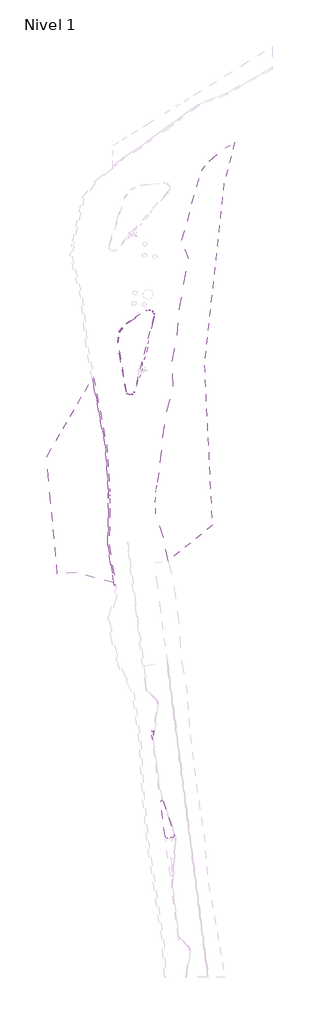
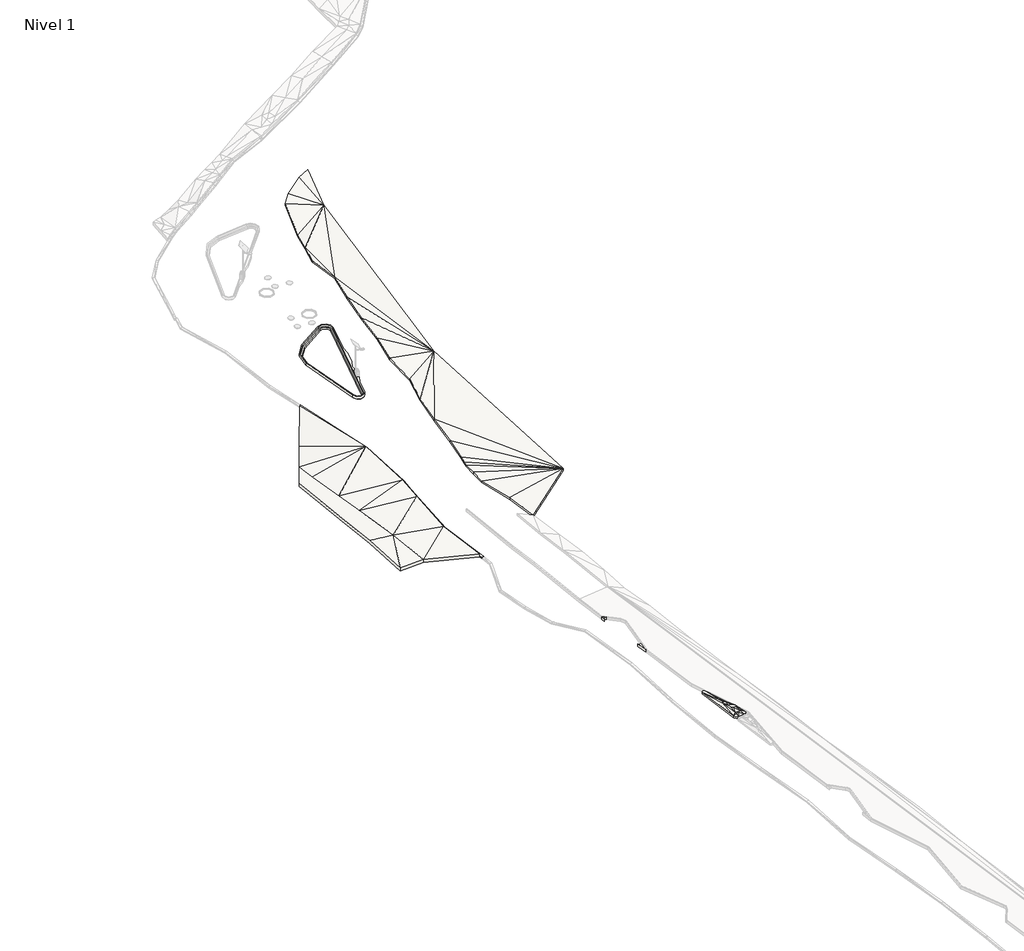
# One storey, part 36 of 45: 7 slabs.
"""IFC4 building model written with IfcOpenShell, lengths in millimetres."""

from ifc_helpers import new_model, si_unit, point, frame, frame_2d, origin, place, context, project, spatial, polyline, circle_curve, trimmed, segment, composite_curve, outline, extrude, faceted_brep, element, save
from ifc_brep_helpers import plane_surface, cylinder_surface, revolved_surface, spline_surface, advanced_brep

model = new_model("IFC4")

# Units and contexts
model_context = context("Model", 3, world=origin())
ifc_project = project(units=[si_unit("LENGTHUNIT", "METRE", prefix="MILLI")], contexts=[model_context])

# Site, building, storey
site = spatial("IfcSite", under=ifc_project)
building = spatial("IfcBuilding", under=site)
storey = spatial("IfcBuildingStorey", under=building, Name="Nivel 1", Elevation=0.0)

# Slabs
placement = place(None, origin())
element("IfcSlab", 1, ObjectType="Tierra de Chacra (50cm)", at=placement, inside=storey, context=model_context, shape_type="Brep", body=[
    faceted_brep([(-222064.6879058, 807823.0811158, 4240.7325958), (-222064.6879058, 807823.0811158, 4740.7325958), (-229632.1521823, 809829.2459218, 5217.4945622), (-229632.1521823, 809829.2459218, 4717.4945622), (-233377.4622238, 809677.0215673, 5217.4945622), (-233377.4622238, 809677.0215673, 4717.4945622), (-234039.3384465, 816728.9255612, 5717.4945622), (-234701.2146691, 823780.8295551, 5717.4945622), (-235122.2789249, 828267.022903, 5717.4945622), (-235578.1192192, 833123.7345995, 5717.4945622), (-235578.1192192, 833123.7345995, 5217.4945622), (-235122.2789249, 828267.022903, 5217.4945622), (-234701.2146691, 823780.8295551, 5217.4945622), (-234039.3384465, 816728.9255612, 5217.4945622), (-233623.3989788, 836476.5681471, 5717.4945622), (-230784.9031716, 841345.2975798, 5217.4945622), (-226374.0135304, 848911.075259, 5717.4945622), (-226374.0135304, 848911.075259, 5217.4945622), (-230784.9031716, 841345.2975798, 4717.4945622), (-233623.3989788, 836476.5681471, 5217.4945622), (-223799.8363071, 835541.050999, 6237.0201004), (-223799.8363071, 835541.050999, 5737.0201004), (-223142.2067318, 826783.6797056, 5785.4201004), (-223142.2067318, 826783.6797056, 5285.4201004), (-223160.2327757, 822811.3117503, 5476.8201004), (-223160.2327757, 822811.3117503, 4976.8201004), (-223288.7493352, 815458.8429505, 5045.7201003), (-223288.7493352, 815458.8429505, 4545.7201003), (-230581.6901084, 816300.674754, 5717.4945622), (-230581.6901084, 816300.674754, 5217.4945622), (-231722.9255187, 823530.6338278, 5717.4945622), (-231722.9255187, 823530.6338278, 5217.4945622), (-232382.3408449, 827927.7704806, 5717.4945622), (-232382.3408449, 827927.7704806, 5217.4945622), (-233271.8706965, 833597.0576142, 5717.4945622), (-233271.8706965, 833597.0576142, 5217.4945622)], [[[0, 1, 2, 3]], [[3, 2, 4, 5]], [[5, 4, 6, 7, 8, 9, 10, 11, 12, 13]], [[10, 9, 14, 15, 16, 17, 18, 19]], [[17, 16, 20, 21]], [[21, 20, 22, 23]], [[23, 22, 24, 25]], [[25, 24, 26, 27]], [[27, 26, 1, 0]], [[26, 24, 28]], [[27, 29, 25]], [[24, 22, 30]], [[26, 2, 1]], [[25, 31, 23]], [[27, 0, 3]], [[22, 20, 32]], [[23, 33, 21]], [[20, 16, 15]], [[21, 18, 17]], [[4, 2, 28]], [[5, 29, 3]], [[9, 8, 7, 6, 28, 30, 32, 34, 14]], [[10, 19, 35, 33, 31, 29, 13, 12, 11]], [[20, 34, 32]], [[21, 33, 35]], [[22, 32, 30]], [[23, 31, 33]], [[4, 28, 6]], [[26, 28, 2]], [[24, 30, 28]], [[5, 13, 29]], [[27, 3, 29]], [[25, 29, 31]], [[20, 14, 34]], [[21, 35, 19]], [[20, 15, 14]], [[21, 19, 18]]]),
])
element("IfcSlab", 2, ObjectType="Lippia", at=placement, inside=storey, context=model_context, shape_type="AdvancedBrep", body=[
    advanced_brep(
    [(-210292.8653894, 756622.9550529, 4950.0), (-210292.8653894, 756622.9550529, 5250.0), (-211201.9377301, 756505.7694745, 5250.0), (-211201.9377301, 756505.7694745, 4950.0), (-209917.9507389, 757304.6194372, 4950.0), (-209917.9507389, 757304.6194372, 5250.0), (-212162.4824775, 763955.6772637, 4950.0), (-212162.4824775, 763955.6772637, 5250.0), (-211758.3017109, 756936.2724955, 4950.0), (-211758.3017109, 756936.2724955, 5250.0), (-212649.344856, 763874.8431575, 5250.0), (-212649.344856, 763874.8431575, 4950.0), (-210700.9478644, 758460.2886419, 5750.0), (-211062.4186099, 758913.2096273, 5750.0), (-211392.6519077, 758956.1857831, 5750.0), (-211480.2468059, 758631.233077, 5750.0), (-211350.2721382, 758389.3771089, 5750.0), (-211212.0426831, 758110.162917, 5750.0), (-210771.2282631, 758087.9082691, 5750.0), (-210601.680698, 757241.204043, 5550.0), (-211051.2300788, 757010.6463593, 5550.0), (-210700.9478644, 758460.2886419, 5450.0), (-210771.2282631, 758087.9082691, 5450.0), (-211212.0426831, 758110.162917, 5450.0), (-211350.2721382, 758389.3771089, 5450.0), (-211480.2468059, 758631.233077, 5450.0), (-211392.6519077, 758956.1857831, 5450.0), (-211062.4186099, 758913.2096273, 5450.0), (-210601.680698, 757241.204043, 5250.0), (-211051.2300788, 757010.6463593, 5250.0), (-211275.7584244, 760169.0789232, 5550.0), (-211756.3845479, 760047.0605759, 5550.0), (-211275.7584244, 760169.0789232, 5250.0), (-211756.3845479, 760047.0605759, 5250.0), (-211413.526468, 757203.1861308, 5550.0), (-211262.6499054, 757002.0698189, 5550.0), (-211413.526468, 757203.1861308, 5250.0), (-211262.6499054, 757002.0698189, 5250.0), (-210361.6821982, 757510.5633203, 5550.0), (-210361.6821982, 757510.5633203, 5250.0), (-210365.4210398, 757871.3121543, 5550.0), (-210365.4210398, 757871.3121543, 5250.0), (-211569.6933824, 760319.3109362, 5550.0), (-211569.6933824, 760319.3109362, 5250.0)],
    [
        (0, 1),
        (1, 2),
        (2, 3),
        (3, 0),
        (4, 5),
        (5, 1, circle_curve(frame((-210380.67553, 757115.184044, 5250.0), z_axis=(0.0, 0.0, -1.0), x_axis=(0.41419378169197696, 0.9101887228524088, 0.0)), 500.0000005)),
        (0, 4, circle_curve(frame((-210380.67553, 757115.184044, 4950.0), z_axis=(0.0, 0.0, 1.0), x_axis=(0.41419378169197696, 0.9101887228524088, 0.0)), 500.0000005)),
        (6, 7),
        (7, 5),
        (4, 6),
        (8, 9),
        (9, 10),
        (10, 11),
        (11, 8),
        (2, 9, circle_curve(frame((-211262.6499054, 757002.0698189, 5250.0), z_axis=(0.0, 0.0, -1.0), x_axis=(0.41419378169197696, 0.9101887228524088, 0.0)), 500.0000001)),
        (8, 3, circle_curve(frame((-211262.6499054, 757002.0698189, 4950.0), z_axis=(0.0, 0.0, 1.0), x_axis=(0.41419378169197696, 0.9101887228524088, 0.0)), 500.0000001)),
        (12, 13),
        (13, 14),
        (14, 15),
        (15, 16),
        (16, 17),
        (17, 18),
        (18, 12),
        (5, 19),
        (19, 1),
        (1, 20),
        (20, 2),
        (21, 22),
        (22, 23),
        (23, 24),
        (24, 25),
        (25, 26),
        (26, 27),
        (27, 21),
        (0, 28),
        (28, 4),
        (3, 29),
        (29, 0),
        (13, 30),
        (30, 14),
        (14, 31),
        (31, 15),
        (26, 32),
        (32, 27),
        (25, 33),
        (33, 26),
        (30, 31),
        (12, 30),
        (33, 32),
        (32, 21),
        (34, 9),
        (9, 35),
        (35, 34),
        (16, 34),
        (34, 17),
        (36, 37),
        (37, 8),
        (8, 36),
        (23, 36),
        (36, 24),
        (2, 35),
        (35, 20),
        (20, 19),
        (19, 34),
        (37, 3),
        (36, 28),
        (28, 29),
        (29, 37),
        (19, 17),
        (19, 18),
        (5, 38),
        (38, 19),
        (23, 28),
        (22, 28),
        (28, 39),
        (39, 4),
        (40, 18),
        (18, 38),
        (38, 40),
        (40, 5),
        (5, 30),
        (30, 40),
        (41, 39),
        (39, 22),
        (22, 41),
        (41, 32),
        (32, 4),
        (4, 41),
        (34, 15),
        (31, 34),
        (31, 9),
        (36, 33),
        (25, 36),
        (8, 33),
        (40, 12),
        (21, 41),
        (42, 31),
        (30, 42),
        (43, 32),
        (33, 43),
        (10, 7, circle_curve(frame((-212399.3463437, 763875.7053413, 5250.0), z_axis=(0.0, 0.0, -1.0), x_axis=(0.41419378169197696, 0.9101887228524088, 0.0)), 249.999999)),
        (6, 11, circle_curve(frame((-212399.3463437, 763875.7053413, 4950.0), z_axis=(0.0, 0.0, 1.0), x_axis=(0.41419378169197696, 0.9101887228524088, 0.0)), 249.999999)),
        (31, 10),
        (42, 10),
        (42, 7),
        (30, 7),
        (11, 33),
        (11, 43),
        (6, 43),
        (6, 32),
    ],
    [
        plane_surface(frame((-210292.8653894, 756622.9550529, 4950.0), z_axis=(0.1278489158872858, -0.9917936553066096, 0.0), x_axis=(0.0, 0.0, 1.0))),
        cylinder_surface(frame((-210380.67553, 757115.184044, 5250.0), z_axis=(0.0, 0.0, -1.0000000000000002), x_axis=(0.41419378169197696, 0.9101887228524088, 0.0)), 500.0000005),
        plane_surface(frame((-212162.4824775, 763955.6772637, 4950.0), z_axis=(0.9475009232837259, 0.3197530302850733, 0.0), x_axis=(0.0, 0.0, 1.0))),
        plane_surface(frame((-211758.3017109, 756936.2724955, 4950.0), z_axis=(-0.9918549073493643, -0.12737284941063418, 0.0), x_axis=(0.0, 0.0, 1.0))),
        cylinder_surface(frame((-211262.6499054, 757002.0698189, 5250.0), z_axis=(0.0, 0.0, -1.0000000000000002), x_axis=(0.41419378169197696, 0.9101887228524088, 0.0)), 500.0000001),
        plane_surface(frame((-211138.5440389, 758506.9093463, 5750.0), z_axis=(0.0, 0.0, 1.0), x_axis=(-0.623783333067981, 0.7815973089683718, 0.0))),
        spline_surface(2, 1, [[(-210292.8653894, 756622.9550529, 5250.0), (-210601.680698, 757241.204043, 5550.0)], [(-210057.69126836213, 756664.9084384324, 5250.0), (-210601.680698, 757241.204043, 5550.0)], [(-209942.5673687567, 756874.2250443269, 5250.0), (-210601.680698, 757241.204043, 5550.0)], [(-209827.44346915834, 757083.5416502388, 5250.0), (-210601.680698, 757241.204043, 5550.0)], [(-209917.9507389, 757304.6194372, 5250.0), (-210601.680698, 757241.204043, 5550.0)]], [3, 2, 3], [2, 2], [0.0, 1.0, 2.0], [0.0, 1.0], weights=[[1.0, 1.0], [0.9023052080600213, 0.9023052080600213], [1.0, 1.0], [0.9023052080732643, 0.9023052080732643], [1.0, 1.0]]),
        plane_surface(frame((-210848.6777328, 756713.1236289, 5350.0), z_axis=(0.06761124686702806, -0.5244972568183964, 0.8487233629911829), x_axis=(0.9917936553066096, 0.1278489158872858, 0.0))),
        plane_surface(frame((-211138.5440389, 758506.9093463, 5450.0), z_axis=(0.0, 0.0, -1.0), x_axis=(-0.623783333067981, 0.7815973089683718, 0.0))),
        spline_surface(1, 2, [[(-210292.8653894, 756622.9550529, 4950.0), (-210057.69126836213, 756664.9084384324, 4950.0), (-209942.5673687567, 756874.2250443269, 4950.0), (-209827.44346915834, 757083.5416502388, 4950.0), (-209917.9507389, 757304.6194372, 4950.0)], [(-210601.680698, 757241.204043, 5250.0), (-210601.680698, 757241.204043, 5250.0), (-210601.680698, 757241.204043, 5250.0), (-210601.680698, 757241.204043, 5250.0), (-210601.680698, 757241.204043, 5250.0)]], [2, 2], [3, 2, 3], [0.0, 1.0], [0.0, 1.0, 2.0], weights=[[1.0, 0.9023052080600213, 1.0, 0.9023052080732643, 1.0], [1.0, 0.9023052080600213, 1.0, 0.9023052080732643, 1.0]]),
        plane_surface(frame((-210848.6777328, 756713.1236289, 5050.0), z_axis=(-0.06761124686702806, 0.5244972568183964, -0.8487233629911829), x_axis=(0.9917936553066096, 0.1278489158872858, 0.0))),
        plane_surface(frame((-211243.6096473, 759346.1581112, 5683.3333333), z_axis=(0.020913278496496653, 0.16069983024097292, 0.9867817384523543), x_axis=(0.9916380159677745, -0.1290505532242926, 0.0))),
        plane_surface(frame((-211543.0944205, 759211.4931453, 5683.3333333), z_axis=(-0.2900087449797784, 0.07817533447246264, 0.9538257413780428), x_axis=(0.2602716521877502, 0.9655354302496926, 0.0))),
        plane_surface(frame((-211243.6096473, 759346.1581112, 5383.3333333), z_axis=(-0.020913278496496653, -0.16069983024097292, -0.9867817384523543), x_axis=(0.9916380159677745, -0.1290505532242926, 0.0))),
        plane_surface(frame((-211543.0944205, 759211.4931453, 5383.3333333), z_axis=(0.2900087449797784, -0.07817533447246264, -0.9538257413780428), x_axis=(0.2602716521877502, 0.9655354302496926, 0.0))),
        plane_surface(frame((-211474.9316267, 759724.1084274, 5616.6666667), z_axis=(-0.04227442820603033, 0.16651753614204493, 0.9851318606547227), x_axis=(0.3116337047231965, -0.9346242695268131, 0.17135317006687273))),
        plane_surface(frame((-211013.0416329, 759180.8590641, 5683.3333333), z_axis=(0.2411342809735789, 0.19244634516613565, 0.9512195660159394), x_axis=(0.16544823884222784, -0.9739455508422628, 0.15510301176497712))),
        plane_surface(frame((-211474.9316267, 759724.1084274, 5316.6666667), z_axis=(0.04227442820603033, -0.16651753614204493, -0.9851318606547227), x_axis=(0.3116337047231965, -0.9346242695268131, 0.17135317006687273))),
        plane_surface(frame((-211013.0416329, 759180.8590641, 5383.3333333), z_axis=(-0.2411342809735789, -0.19244634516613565, -0.9512195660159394), x_axis=(0.16544823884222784, -0.9739455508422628, 0.15510301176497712))),
        plane_surface(frame((-211478.1593614, 757047.1761484, 5450.0), z_axis=(-0.45345880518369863, -0.34018277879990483, 0.8238026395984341), x_axis=(-0.6514326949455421, -0.5043177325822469, -0.5668324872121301))),
        plane_surface(frame((-211325.2804298, 757900.9087189, 5683.3333333), z_axis=(-0.29081868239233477, -0.14397444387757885, 0.9458836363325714), x_axis=(-0.44367266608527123, 0.8961889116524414, 0.0))),
        plane_surface(frame((-211478.1593614, 757047.1761484, 5150.0), z_axis=(0.45345880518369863, 0.34018277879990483, -0.8238026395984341), x_axis=(-0.6514326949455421, -0.5043177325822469, -0.5668324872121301))),
        plane_surface(frame((-211325.2804298, 757900.9087189, 5383.3333333), z_axis=(0.29081868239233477, 0.14397444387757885, -0.9458836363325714), x_axis=(-0.44367266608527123, 0.8961889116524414, 0.0))),
        revolved_surface(polyline([(-211262.6499054, 757002.0698189, 5550.0), (-211758.3017109, 756936.2724955, 5250.0)]), (-211262.6499054, 757002.0698189, 5550.0), (0.0, 0.0, -1.0)),
        plane_surface(frame((-211082.2717875, 757114.276588, 5550.0), z_axis=(0.0, 0.0, 1.0), x_axis=(0.9991781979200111, 0.04053305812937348, 0.0))),
        plane_surface(frame((-211171.9392381, 756839.4952175, 5450.0), z_axis=(0.02090468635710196, -0.515320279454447, 0.85674267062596), x_axis=(0.10412052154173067, -0.8511480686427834, -0.5144957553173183))),
        revolved_surface(polyline([(-211201.9377301, 756505.7694745, 4950.0), (-211262.6499054, 757002.0698189, 5250.0)]), (-211262.6499054, 757002.0698189, 5250.0), (0.0, 0.0, -1.0)),
        plane_surface(frame((-211082.2717875, 757114.276588, 5250.0), z_axis=(0.0, 0.0, -1.0), x_axis=(0.9991781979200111, 0.04053305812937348, 0.0))),
        plane_surface(frame((-211171.9392381, 756839.4952175, 5150.0), z_axis=(-0.02090468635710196, 0.515320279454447, -0.85674267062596), x_axis=(0.10412052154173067, -0.8511480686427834, -0.5144957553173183))),
        plane_surface(frame((-211075.7499497, 757518.1843636, 5616.6666667), z_axis=(0.010184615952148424, -0.21748530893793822, 0.97601045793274), x_axis=(-0.5648519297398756, 0.8041672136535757, 0.1850875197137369))),
        plane_surface(frame((-210861.650548, 757813.091743, 5683.3333333), z_axis=(-0.011717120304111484, -0.23208974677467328, 0.9726238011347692), x_axis=(-0.19128273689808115, 0.9552475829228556, 0.22563902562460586))),
        plane_surface(frame((-210293.7712117, 757352.1289335, 5450.0), z_axis=(0.4027434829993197, -0.35884352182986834, 0.8420386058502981), x_axis=(0.912444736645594, 0.08462850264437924, -0.40035311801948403))),
        plane_surface(frame((-210648.5920554, 756958.2684851, 5450.0), z_axis=(0.18172584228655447, -0.35433536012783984, 0.9172906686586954), x_axis=(0.8398215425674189, -0.42933369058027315, -0.33222335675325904))),
        plane_surface(frame((-211075.7499497, 757518.1843636, 5316.6666667), z_axis=(-0.010184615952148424, 0.21748530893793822, -0.97601045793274), x_axis=(-0.5648519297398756, 0.8041672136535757, 0.1850875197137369))),
        plane_surface(frame((-210861.650548, 757813.091743, 5383.3333333), z_axis=(0.011717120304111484, 0.23208974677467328, -0.9726238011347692), x_axis=(-0.19128273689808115, 0.9552475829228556, 0.22563902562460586))),
        plane_surface(frame((-210293.7712117, 757352.1289335, 5150.0), z_axis=(-0.4027434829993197, 0.35884352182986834, -0.8420386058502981), x_axis=(0.912444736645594, 0.08462850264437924, -0.40035311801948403))),
        plane_surface(frame((-210648.5920554, 756958.2684851, 5150.0), z_axis=(-0.18172584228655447, 0.35433536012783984, -0.9172906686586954), x_axis=(0.8398215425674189, -0.42933369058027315, -0.33222335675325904))),
        plane_surface(frame((-210499.4438337, 757823.2612479, 5616.6666667), z_axis=(0.44404235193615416, 0.004602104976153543, 0.8959939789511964), x_axis=(-0.8090403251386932, 0.4318183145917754, 0.3987313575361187))),
        plane_surface(frame((-210519.7100677, 758448.3368382, 5450.0), z_axis=(0.7648784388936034, 0.30303225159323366, 0.5684473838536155), x_axis=(0.5722845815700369, -0.7247620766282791, -0.38367993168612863))),
        plane_surface(frame((-210499.4438337, 757823.2612479, 5316.6666667), z_axis=(-0.44404235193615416, -0.004602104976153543, -0.8959939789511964), x_axis=(-0.8090403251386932, 0.4318183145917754, 0.3987313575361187))),
        plane_surface(frame((-210519.7100677, 758448.3368382, 5150.0), z_axis=(-0.7648784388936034, -0.30303225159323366, -0.5684473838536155), x_axis=(0.5722845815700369, -0.7247620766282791, -0.38367993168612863))),
        plane_surface(frame((-210578.1970531, 757613.2252108, 5616.6666667), z_axis=(0.20789891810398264, -0.18523746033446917, 0.9604504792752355), x_axis=(-0.5567778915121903, 0.7849004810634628, 0.2719000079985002))),
        plane_surface(frame((-210578.1970531, 757613.2252108, 5316.6666667), z_axis=(-0.20789891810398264, 0.18523746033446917, -0.9604504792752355), x_axis=(-0.5567778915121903, 0.7849004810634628, 0.2719000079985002))),
        plane_surface(frame((-211550.0526073, 758627.1599279, 5616.6666667), z_axis=(-0.8795981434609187, -0.10604453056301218, 0.46374741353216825), x_axis=(-0.0462203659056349, 0.9892763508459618, 0.13854955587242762))),
        plane_surface(frame((-211414.681804, 758074.5987722, 5683.3333333), z_axis=(-0.2715226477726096, -0.14591769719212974, 0.951306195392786), x_axis=(0.05251084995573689, 0.9847214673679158, 0.16603084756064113))),
        plane_surface(frame((-211642.7375756, 758062.1730674, 5450.0), z_axis=(-0.6209666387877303, -0.07486386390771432, 0.7802536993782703), x_axis=(-0.0006134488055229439, -0.9953817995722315, -0.09599321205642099))),
        plane_surface(frame((-211550.0526073, 758627.1599279, 5316.6666667), z_axis=(0.8795981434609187, 0.10604453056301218, -0.46374741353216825), x_axis=(-0.0462203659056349, 0.9892763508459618, 0.13854955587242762))),
        plane_surface(frame((-211414.681804, 758074.5987722, 5383.3333333), z_axis=(0.2715226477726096, 0.14591769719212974, -0.951306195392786), x_axis=(0.05251084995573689, 0.9847214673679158, 0.16603084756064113))),
        plane_surface(frame((-211642.7375756, 758062.1730674, 5150.0), z_axis=(0.6209666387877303, 0.07486386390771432, -0.7802536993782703), x_axis=(-0.0006134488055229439, -0.9953817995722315, -0.09599321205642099))),
        plane_surface(frame((-210612.5323891, 758139.8363551, 5683.3333333), z_axis=(0.4074399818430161, -0.076897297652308, 0.9099887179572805), x_axis=(-0.18545869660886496, -0.9826520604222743, 0.0))),
        plane_surface(frame((-210780.7091095, 758833.5599064, 5616.6666667), z_axis=(0.8397727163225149, 0.3327041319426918, 0.4290568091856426), x_axis=(0.31688543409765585, -0.942033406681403, 0.11025734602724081))),
        plane_surface(frame((-210612.5323891, 758139.8363551, 5383.3333333), z_axis=(-0.4074399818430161, 0.076897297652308, -0.9099887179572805), x_axis=(-0.18545869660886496, -0.9826520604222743, 0.0))),
        plane_surface(frame((-210780.7091095, 758833.5599064, 5316.6666667), z_axis=(-0.8397727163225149, -0.3327041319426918, -0.4290568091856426), x_axis=(0.31688543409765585, -0.942033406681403, 0.11025734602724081))),
        plane_surface(frame((-211533.9454516, 760178.4834784, 5550.0), z_axis=(0.0, 0.0, 1.0), x_axis=(-0.5655390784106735, -0.8247214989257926, 0.0))),
        plane_surface(frame((-210215.0179923, 757562.1649706, 5450.0), z_axis=(0.5619341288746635, 0.005823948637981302, 0.8271614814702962), x_axis=(0.7732455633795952, -0.35887740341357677, -0.5227794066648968))),
        plane_surface(frame((-211533.9454516, 760178.4834784, 5250.0), z_axis=(0.0, 0.0, -1.0), x_axis=(-0.5655390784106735, -0.8247214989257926, 0.0))),
        plane_surface(frame((-210215.0179923, 757562.1649706, 5150.0), z_axis=(-0.5619341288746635, -0.005823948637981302, -0.8271614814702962), x_axis=(0.7732455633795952, -0.35887740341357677, -0.5227794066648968))),
        cylinder_surface(frame((-212399.3463437, 763875.7053413, 5250.0), z_axis=(0.0, 0.0, -1.0000000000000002), x_axis=(0.41419378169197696, 0.9101887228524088, 0.0)), 249.999999),
        plane_surface(frame((-212054.6770383, 760286.058743, 5350.0), z_axis=(-0.5968959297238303, -0.07665267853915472, 0.7986486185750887), x_axis=(0.12737284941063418, -0.9918549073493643, 0.0))),
        plane_surface(frame((-211991.8075954, 761413.7382232, 5450.0), z_axis=(-0.08482829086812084, 0.05816959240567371, 0.9946961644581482), x_axis=(0.2265251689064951, -0.9710275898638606, 0.07610366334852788))),
        spline_surface(2, 1, [[(-212162.4824775, 763955.6772637, 5250.0), (-211569.6933824, 760319.3109362, 5550.0)], [(-212230.50870632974, 764157.159922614, 5250.0), (-211569.6933824, 760319.3109362, 5550.0)], [(-212440.29347928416, 764122.3292078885, 5250.0), (-211569.6933824, 760319.3109362, 5550.0)], [(-212650.0782522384, 764087.4984931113, 5250.0), (-211569.6933824, 760319.3109362, 5550.0)], [(-212649.344856, 763874.8431575, 5250.0), (-211569.6933824, 760319.3109362, 5550.0)]], [3, 2, 3], [2, 2], [0.0, 1.0, 2.0], [0.0, 1.0], weights=[[1.0, 1.0], [0.7617038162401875, 0.7617038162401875], [1.0, 1.0], [0.7617038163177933, 0.7617038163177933], [1.0, 1.0]]),
        plane_surface(frame((-211669.3114281, 761481.3557077, 5450.0), z_axis=(0.045765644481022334, 0.08954231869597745, 0.9949309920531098), x_axis=(0.8904364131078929, -0.4551076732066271, 0.0))),
        plane_surface(frame((-211118.730547, 760476.4585414, 5350.0), z_axis=(0.5961501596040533, 0.20118272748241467, 0.7772583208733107), x_axis=(0.4264279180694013, -0.8996012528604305, -0.0942168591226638))),
        plane_surface(frame((-212054.6770383, 760286.058743, 5050.0), z_axis=(0.5968959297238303, 0.07665267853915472, -0.7986486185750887), x_axis=(0.12737284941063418, -0.9918549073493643, 0.0))),
        plane_surface(frame((-211991.8075954, 761413.7382232, 5150.0), z_axis=(0.08482829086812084, -0.05816959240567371, -0.9946961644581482), x_axis=(0.2265251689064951, -0.9710275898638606, 0.07610366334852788))),
        spline_surface(1, 2, [[(-212162.4824775, 763955.6772637, 4950.0), (-212230.50870632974, 764157.159922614, 4950.0), (-212440.29347928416, 764122.3292078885, 4950.0), (-212650.0782522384, 764087.4984931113, 4950.0), (-212649.344856, 763874.8431575, 4950.0)], [(-211569.6933824, 760319.3109362, 5250.0), (-211569.6933824, 760319.3109362, 5250.0), (-211569.6933824, 760319.3109362, 5250.0), (-211569.6933824, 760319.3109362, 5250.0), (-211569.6933824, 760319.3109362, 5250.0)]], [2, 2], [3, 2, 3], [0.0, 1.0], [0.0, 1.0, 2.0], weights=[[1.0, 0.7617038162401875, 1.0, 0.7617038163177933, 1.0], [1.0, 0.7617038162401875, 1.0, 0.7617038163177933, 1.0]]),
        plane_surface(frame((-211669.3114281, 761481.3557077, 5150.0), z_axis=(-0.045765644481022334, -0.08954231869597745, -0.9949309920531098), x_axis=(0.8904364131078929, -0.4551076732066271, 0.0))),
        plane_surface(frame((-211118.730547, 760476.4585414, 5050.0), z_axis=(-0.5961501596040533, -0.20118272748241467, -0.7772583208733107), x_axis=(0.4264279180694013, -0.8996012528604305, -0.0942168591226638))),
    ],
    [
        (0, [[1, 2, 3, 4]]),
        (1, [[5, 6, -1, 7]]),
        (2, [[8, 9, -5, 10]]),
        (3, [[11, 12, 13, 14]]),
        (4, [[-3, 15, -11, 16]]),
        (5, [[17, 18, 19, 20, 21, 22, 23]]),
        (6, [[-6, 24, 25]]),
        (7, [[-2, 26, 27]]),
        (8, [[28, 29, 30, 31, 32, 33, 34]]),
        (9, [[35, 36, -7]]),
        (10, [[37, 38, -4]]),
        (11, [[-18, 39, 40]]),
        (12, [[-19, 41, 42]]),
        (13, [[43, 44, -33]]),
        (14, [[45, 46, -32]]),
        (15, [[-41, -40, 47]]),
        (16, [[-39, -17, 48]]),
        (17, [[49, -43, -46]]),
        (18, [[50, -34, -44]]),
        (19, [[51, 52, 53]]),
        (20, [[-21, 54, 55]]),
        (21, [[56, 57, 58]]),
        (22, [[59, 60, -30]]),
        (23, [[-52, -15, 61]]),
        (24, [[62, 63, 64, -53]]),
        (25, [[-61, -27, -62]]),
        (26, [[65, -16, -57]]),
        (27, [[-56, 66, 67, 68]]),
        (28, [[-68, -37, -65]]),
        (29, [[69, -55, -64]]),
        (30, [[70, -22, -69]]),
        (31, [[-24, 71, 72]]),
        (32, [[-26, -25, -63]]),
        (33, [[-66, -59, 73]]),
        (34, [[-73, -29, 74]]),
        (35, [[75, 76, -36]]),
        (36, [[-67, -35, -38]]),
        (37, [[77, 78, 79]]),
        (38, [[80, 81, 82]]),
        (39, [[83, 84, 85]]),
        (40, [[86, 87, 88]]),
        (41, [[-78, -70, -72]]),
        (42, [[-75, -74, -84]]),
        (43, [[89, -42, 90]]),
        (44, [[-54, -20, -89]]),
        (45, [[91, -51, -90]]),
        (46, [[92, -45, 93]]),
        (47, [[-93, -31, -60]]),
        (48, [[-92, -58, 94]]),
        (49, [[-23, -77, 95]]),
        (50, [[-48, -95, -82]]),
        (51, [[96, -85, -28]]),
        (52, [[-86, -96, -50]]),
        (53, [[97, -47, 98]]),
        (54, [[-71, -80, -79]]),
        (55, [[99, -49, 100]]),
        (56, [[-83, -88, -76]]),
        (57, [[-13, 101, -8, 102]]),
        (58, [[-12, -91, 103]]),
        (59, [[-103, -97, 104]]),
        (60, [[-104, 105, -101]]),
        (61, [[-98, 106, -105]]),
        (62, [[-81, -9, -106]]),
        (63, [[107, -94, -14]]),
        (64, [[108, -100, -107]]),
        (65, [[-102, 109, -108]]),
        (66, [[-109, 110, -99]]),
        (67, [[-110, -10, -87]]),
    ],
),
])
element("IfcSlab", 3, ObjectType="Bordillo", at=placement, inside=storey, context=model_context, shape_type="SweptSolid", body=[
    extrude(outline(composite_curve([segment(polyline([(-219603.3538787, 846245.5592748), (-221295.3077301, 856110.8504487)]), True, "CONTINUOUS"), segment(trimmed(circle_curve(frame_2d((-217451.4303312, 856770.0974039)), 3900.0000007), [point((-221295.3077301, 856110.8504487))], [point((-219604.9445741, 860021.6164968))], False, "CARTESIAN"), True, "CONTINUOUS"), segment(polyline([(-219604.9445741, 860021.6164968), (-215659.4832182, 862634.7357749)]), True, "CONTINUOUS"), segment(trimmed(circle_curve(frame_2d((-215024.4726084, 861675.9545044)), 1149.9999996), [point((-215659.4832182, 862634.7357749))], [point((-213911.0820754, 861388.0977345))], False, "CARTESIAN"), True, "CONTINUOUS"), segment(polyline([(-213911.0820754, 861388.0977345), (-215183.0752395, 856468.2025117), (-215241.4060699, 855243.8274752), (-215767.0575279, 853210.6796799), (-216309.4712329, 852111.4584083), (-216367.8021008, 850887.0816311), (-216688.1991788, 849647.8295816), (-217230.6638765, 848548.4119368), (-217844.9561421, 846172.4139493)]), True, "CONTINUOUS"), segment(trimmed(circle_curve(frame_2d((-218716.3052483, 846397.6931875)), 900.0), [point((-217844.9561421, 846172.4139493))], [point((-219603.3538787, 846245.5592748))], False, "CARTESIAN"), True, "CONTINUOUS")], self_intersect=False), holes=[composite_curve([segment(polyline([(-217990.1809921, 846209.9604907), (-214056.3069344, 861425.6442398)]), True, "CONTINUOUS"), segment(trimmed(circle_curve(frame_2d((-215024.472608, 861675.9545045)), 1000.0000001), [point((-214056.3069344, 861425.6442398))], [point((-215576.655747, 862509.6773489))], True, "CARTESIAN"), True, "CONTINUOUS"), segment(polyline([(-215576.655747, 862509.6773489), (-219522.0681797, 859896.5904741)]), True, "CONTINUOUS"), segment(trimmed(circle_curve(frame_2d((-217451.4303307, 856770.0974053)), 3750.0000016), [point((-219522.0681797, 859896.5904741))], [point((-221147.466292, 856136.2061018))], True, "CARTESIAN"), True, "CONTINUOUS"), segment(polyline([(-221147.466292, 856136.2061018), (-219455.5124402, 846270.9149287)]), True, "CONTINUOUS"), segment(trimmed(circle_curve(frame_2d((-218716.3052478, 846397.6931894)), 750.0000005), [point((-219455.5124402, 846270.9149287))], [point((-217990.1809921, 846209.9604907))], True, "CARTESIAN"), True, "CONTINUOUS")], self_intersect=False)]), frame((0.0, 0.0, 6350.0), z_axis=(0.0, 0.0, 1.0), x_axis=(1.0, 0.0, 0.0)), (0.0, 0.0, 1.0), 400.0),
])
element("IfcSlab", 4, ObjectType="Portulaca", at=placement, inside=storey, context=model_context, shape_type="Brep", body=[
    faceted_brep([(-202290.3927187, 819437.8249706, 4520.0), (-202290.3927187, 819437.8249706, 4820.0), (-211091.2718558, 812261.603559, 4628.3220272), (-211091.2718558, 812261.603559, 4328.3220272), (-212061.456789, 816895.9918959, 5041.0466373), (-212061.456789, 816895.9918959, 4741.0466373), (-213635.3426366, 821733.9373306, 5406.7275994), (-213635.3426366, 821733.9373306, 5106.7275994), (-209271.1121165, 857592.039112, 5401.0962824), (-209271.1121165, 857592.039112, 5701.0962824), (-208855.295737, 862687.7192262, 5842.8385069), (-208855.295737, 862687.7192262, 5542.8385069), (-206974.3443393, 873015.0461234, 5297.2774262), (-206974.3443393, 873015.0461234, 5597.2774262), (-208363.415223, 876740.9158322, 6550.2710408), (-208363.415223, 876740.9158322, 6250.2710408), (-207205.2884341, 880568.8030706, 5981.711849), (-207205.2884341, 880568.8030706, 5681.711849), (-206365.8721425, 884031.1237281, 5692.9209398), (-206365.8721425, 884031.1237281, 5392.9209398), (-204420.648299, 890807.3873451, 6029.7561332), (-204420.648299, 890807.3873451, 5729.7561332), (-202906.26479, 892608.2162434, 6004.4489841), (-202906.26479, 892608.2162434, 5704.4489841), (-199623.4576732, 895322.5696763, 5961.3700357), (-199623.4576732, 895322.5696763, 5661.3700357), (-197740.6824608, 896362.8059976, 5901.6606943), (-197740.6824608, 896362.8059976, 5601.6606943), (-199934.1694903, 888176.6009578, 5800.0), (-199934.1694903, 888176.6009578, 5500.0), (-203895.1547031, 851614.6915281, 5250.0), (-203895.1547031, 851614.6915281, 4950.0), (-213693.3295374, 823995.8501682, 5475.6704425), (-213693.3295374, 823995.8501682, 5175.6704425), (-213603.7183652, 826016.8676171, 5433.6235503), (-213603.7183652, 826016.8676171, 5133.6235503), (-213494.7807038, 826793.9510308, 5414.8673269), (-213494.7807038, 826793.9510308, 5114.8673269), (-213233.7559515, 828039.2948668, 5381.8039235), (-213233.7559515, 828039.2948668, 5081.8039235), (-212703.4002687, 831938.295288, 5507.9781104), (-212703.4002687, 831938.295288, 5207.9781104), (-212221.118846, 837042.5876863, 5782.8766429), (-212221.118846, 837042.5876863, 5482.8766429), (-211432.5471215, 842186.5680031, 5736.6830581), (-211432.5471215, 842186.5680031, 5436.6830581), (-210092.5989872, 847401.9935541, 5412.496502), (-210092.5989872, 847401.9935541, 5112.496502), (-210288.8666375, 852418.3621703, 5862.8392547), (-210288.8666375, 852418.3621703, 5562.8392547), (-208014.9804432, 867838.4042736, 5770.5568359), (-208014.9804432, 867838.4042736, 5470.5568359)], [[[0, 1, 2, 3]], [[3, 2, 4, 5]], [[5, 4, 6, 7]], [[8, 9, 10, 11]], [[12, 13, 14, 15]], [[15, 14, 16, 17]], [[17, 16, 18, 19]], [[19, 18, 20, 21]], [[21, 20, 22, 23]], [[23, 22, 24, 25]], [[25, 24, 26, 27]], [[27, 26, 28, 29]], [[29, 28, 30, 31]], [[31, 30, 1, 0]], [[30, 28, 13]], [[31, 12, 29]], [[4, 2, 1]], [[5, 0, 3]], [[28, 26, 24]], [[29, 25, 27]], [[28, 16, 13]], [[29, 12, 17]], [[28, 18, 16]], [[29, 17, 19]], [[28, 20, 18]], [[29, 19, 21]], [[28, 22, 20]], [[29, 21, 23]], [[28, 24, 22]], [[29, 23, 25]], [[7, 6, 32, 33]], [[33, 32, 34, 35]], [[35, 34, 36, 37]], [[37, 36, 38, 39]], [[39, 38, 40, 41]], [[41, 40, 42, 43]], [[43, 42, 44, 45]], [[45, 44, 46, 47]], [[47, 46, 48, 49]], [[49, 48, 9, 8]], [[11, 10, 50, 51]], [[51, 50, 13, 12]], [[1, 36, 34]], [[1, 32, 6]], [[1, 34, 32]], [[1, 38, 36]], [[4, 1, 6]], [[1, 40, 38]], [[1, 42, 40]], [[30, 46, 44]], [[30, 9, 48]], [[30, 48, 46]], [[30, 44, 42]], [[30, 50, 10]], [[30, 13, 50]], [[30, 10, 9]], [[30, 42, 1]], [[16, 14, 13]], [[0, 35, 37]], [[0, 7, 33]], [[0, 33, 35]], [[0, 37, 39]], [[5, 7, 0]], [[0, 39, 41]], [[0, 41, 43]], [[31, 45, 47]], [[31, 49, 8]], [[31, 47, 49]], [[31, 43, 45]], [[31, 11, 51]], [[31, 51, 12]], [[31, 8, 11]], [[31, 0, 43]], [[17, 12, 15]]]),
])
element("IfcSlab", 5, ObjectType="Bordillo", at=placement, inside=storey, context=model_context, shape_type="SweptSolid", body=[
    extrude(outline(composite_curve([segment(polyline([(-214016.3343009, 778151.6564167), (-214264.8249221, 776276.0207368), (-214503.7560936, 778121.2617192)]), True, "CONTINUOUS"), segment(trimmed(circle_curve(frame_2d((-214263.6088, 778193.6064588)), 250.8076633), [point((-214503.7560936, 778121.2617192))], [point((-214016.3343009, 778151.6564167))], True, "CARTESIAN"), True, "CONTINUOUS")], self_intersect=False)), frame((0.0, 0.0, 4850.0), z_axis=(0.0, 0.0, 1.0), x_axis=(1.0, 0.0, 0.0)), (0.0, 0.0, 1.0), 400.0),
    extrude(outline(composite_curve([segment(polyline([(-215458.8521231, 785492.1860013), (-215549.7700706, 786193.8424696), (-215037.8457363, 785696.9755199)]), True, "CONTINUOUS"), segment(trimmed(circle_curve(frame_2d((-215209.9558987, 785515.6523498)), 250.0000001), [point((-215037.8457363, 785696.9755199))], [point((-215458.8521231, 785492.1860013))], True, "CARTESIAN"), True, "CONTINUOUS")], self_intersect=False)), frame((0.0, 0.0, 4850.0), z_axis=(0.0, 0.0, 1.0), x_axis=(1.0, 0.0, 0.0)), (0.0, 0.0, 1.0), 400.0),
])
element("IfcSlab", 6, ObjectType="Tierra de Chacra (25cm)", at=placement, inside=storey, context=model_context, shape_type="AdvancedBrep", body=[
    advanced_brep(
    [(-217990.1809921, 846209.9604908, 6200.0), (-219455.5124403, 846270.9149286, 6200.0), (-221141.9550067, 856104.0713945, 6200.0), (-219494.9344942, 859914.561392, 6200.0), (-215576.6557468, 862509.677349, 6200.0), (-214056.3069344, 861425.6442398, 6200.0), (-214298.3126453, 861488.1963505, 6200.0), (-215438.647372, 862301.1727503, 6200.0), (-219384.035604, 859688.1019054, 6200.0), (-220901.0281813, 856178.4400654, 6200.0), (-219209.0743286, 846313.1488911, 6200.0), (-218232.1866975, 846272.5125992, 6200.0), (-217990.180992, 846209.9604907, 6450.0), (-214056.3069344, 861425.6442398, 6450.0), (-215576.6557468, 862509.677349, 6450.0), (-219494.9344942, 859914.561392, 6450.0), (-221141.9550067, 856104.0713945, 6450.0), (-219455.5124403, 846270.9149286, 6450.0), (-214298.3126396, 861488.1963494, 6450.0), (-218232.1866975, 846272.5125992, 6450.0), (-219209.0743286, 846313.1488911, 6450.0), (-220901.0281813, 856178.4400654, 6450.0), (-219384.035604, 859688.1019054, 6450.0), (-215438.647372, 862301.1727503, 6450.0)],
    [
        (0, 1, circle_curve(frame((-218716.3052478, 846397.6931894, 6200.0), z_axis=(0.0, 0.0, -1.0), x_axis=(-0.9332991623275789, -0.359099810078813, 0.0)), 750.0000005)),
        (1, 2),
        (2, 3, circle_curve(frame((-217396.6385663, 856746.4145822, 6200.0), z_axis=(0.0, 0.0, -1.0), x_axis=(-0.9332991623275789, -0.359099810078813, 0.0)), 3800.0000013)),
        (3, 4),
        (4, 5, circle_curve(frame((-215024.472608, 861675.9545045, 6200.0), z_axis=(0.0, 0.0, -1.0), x_axis=(-0.9332991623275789, -0.359099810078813, 0.0)), 1000.0000001)),
        (5, 0),
        (6, 7, circle_curve(frame((-215024.4369024, 861675.9290467, 6200.0), z_axis=(0.0, 0.0, 1.0), x_axis=(-0.9332991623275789, -0.359099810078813, 0.0)), 750.0000013)),
        (7, 8),
        (8, 9, circle_curve(frame((-217451.3946177, 856770.0719489, 6200.0), z_axis=(0.0, 0.0, 1.0), x_axis=(-0.9332991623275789, -0.359099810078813, 0.0)), 3500.0000013)),
        (9, 10),
        (10, 11, circle_curve(frame((-218716.2695341, 846397.6677315, 6200.0), z_axis=(0.0, 0.0, 1.0), x_axis=(-0.9332991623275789, -0.359099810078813, 0.0)), 499.9999998)),
        (11, 6),
        (12, 13),
        (13, 14, circle_curve(frame((-215024.472608, 861675.9545045, 6450.0), z_axis=(0.0, 0.0, 1.0), x_axis=(-0.9332991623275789, -0.359099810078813, 0.0)), 1000.0000001)),
        (14, 15),
        (15, 16, circle_curve(frame((-217396.6385663, 856746.4145822, 6450.0), z_axis=(0.0, 0.0, 1.0), x_axis=(-0.9332991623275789, -0.359099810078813, 0.0)), 3800.0000013)),
        (16, 17),
        (17, 12, circle_curve(frame((-218716.3052478, 846397.6931894, 6450.0), z_axis=(0.0, 0.0, 1.0), x_axis=(-0.9332991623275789, -0.359099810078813, 0.0)), 750.0000005)),
        (18, 19),
        (19, 20, circle_curve(frame((-218716.2695341, 846397.6677315, 6450.0), z_axis=(0.0, 0.0, -1.0), x_axis=(-0.9332991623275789, -0.359099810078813, 0.0)), 499.9999998)),
        (20, 21),
        (21, 22, circle_curve(frame((-217451.3946177, 856770.0719489, 6450.0), z_axis=(0.0, 0.0, -1.0), x_axis=(-0.9332991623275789, -0.359099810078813, 0.0)), 3500.0000013)),
        (22, 23),
        (23, 18, circle_curve(frame((-215024.4369024, 861675.9290467, 6450.0), z_axis=(0.0, 0.0, -1.0), x_axis=(-0.9332991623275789, -0.359099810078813, 0.0)), 750.0000013)),
        (6, 18),
        (23, 7),
        (22, 8),
        (21, 9),
        (20, 10),
        (19, 11),
        (0, 12),
        (17, 1),
        (16, 2),
        (15, 3),
        (14, 4),
        (13, 5),
    ],
    [
        plane_surface(frame((-215724.4112754, 861406.6041887, 6200.0), z_axis=(0.0, 0.0, -1.0), x_axis=(0.359099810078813, -0.9332991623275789, 0.0))),
        plane_surface(frame((-215724.4112754, 861406.6041887, 6450.0), z_axis=(0.0, 0.0, 1.0), x_axis=(-0.359099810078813, 0.9332991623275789, 0.0))),
        revolved_surface(polyline([(-215724.41127535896, 861406.604188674, 6450.0), (-215724.41127535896, 861406.604188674, 6200.0)]), (-215024.4369024, 861675.9290467, 6450.0), (0.0, 0.0, 1.0)),
        plane_surface(frame((-215438.647372, 862301.1727503, 6200.0), z_axis=(0.5521831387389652, -0.8337228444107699, 0.0), x_axis=(0.0, 0.0, 1.0))),
        revolved_surface(polyline([(-220717.9416870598, 855513.2226131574, 6450.0), (-220717.9416870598, 855513.2226131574, 6200.0)]), (-217451.3946177, 856770.0719489, 6450.0), (0.0, 0.0, 1.0)),
        plane_surface(frame((-220901.0281813, 856178.4400654, 6200.0), z_axis=(0.9856095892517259, 0.16903768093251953, 0.0), x_axis=(0.0, 0.0, 1.0))),
        revolved_surface(polyline([(-219182.91911507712, 846218.1178265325, 6450.0), (-219182.91911507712, 846218.1178265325, 6200.0)]), (-218716.2695341, 846397.6677315, 6450.0), (0.0, 0.0, 1.0)),
        plane_surface(frame((-218232.1866975, 846272.5125992, 6200.0), z_axis=(-0.9681656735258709, 0.25031026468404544, 0.0), x_axis=(0.0, 0.0, 1.0))),
        cylinder_surface(frame((-218716.3052478, 846397.6931894, 0.0), z_axis=(0.0, 0.0, -1.0), x_axis=(-0.9332991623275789, -0.359099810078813, 0.0)), 750.0000005),
        plane_surface(frame((-219455.5124403, 846270.9149286, 6200.0), z_axis=(-0.9856095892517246, -0.16903768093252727, 0.0), x_axis=(0.0, 0.0, 1.0))),
        cylinder_surface(frame((-217396.6385663, 856746.4145822, 0.0), z_axis=(0.0, 0.0, -1.0), x_axis=(-0.9332991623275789, -0.359099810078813, 0.0)), 3800.0000013),
        plane_surface(frame((-219494.9344942, 859914.561392, 6200.0), z_axis=(-0.5521831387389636, 0.8337228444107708, 0.0), x_axis=(0.0, 0.0, 1.0))),
        cylinder_surface(frame((-215024.472608, 861675.9545045, 0.0), z_axis=(0.0, 0.0, -1.0), x_axis=(-0.9332991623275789, -0.359099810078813, 0.0)), 1000.0000001),
        plane_surface(frame((-214056.3069344, 861425.6442398, 6200.0), z_axis=(0.9681656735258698, -0.2503102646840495, 0.0), x_axis=(0.0, 0.0, 1.0))),
    ],
    [
        (0, [[1, 2, 3, 4, 5, 6], [7, 8, 9, 10, 11, 12]]),
        (1, [[13, 14, 15, 16, 17, 18], [19, 20, 21, 22, 23, 24]]),
        (2, [[-7, 25, -24, 26]]),
        (3, [[-8, -26, -23, 27]]),
        (4, [[-9, -27, -22, 28]]),
        (5, [[-10, -28, -21, 29]]),
        (6, [[-11, -29, -20, 30]]),
        (7, [[-12, -30, -19, -25]]),
        (8, [[-1, 31, -18, 32]]),
        (9, [[-2, -32, -17, 33]]),
        (10, [[-3, -33, -16, 34]]),
        (11, [[-4, -34, -15, 35]]),
        (12, [[-5, -35, -14, 36]]),
        (13, [[-6, -36, -13, -31]]),
    ],
),
])
element("IfcSlab", 7, ObjectType="Tierra de Chacra (20cm)", at=placement, inside=storey, context=model_context, shape_type="Brep", body=[
    faceted_brep([(-221688.3333165, 807370.6704607, 4217.5201004), (-221688.3333165, 807370.6704607, 4417.5201004), (-221984.5513339, 807323.1848191, 4417.5201004), (-221984.5513339, 807323.1848191, 4217.5201004), (-223288.7493352, 815458.8429521, 4745.7201004), (-223288.7493352, 815458.8429521, 4545.7201004), (-223160.2327757, 822811.311749, 5176.8201004), (-223160.2327757, 822811.311749, 4976.8201004), (-223151.1178186, 824819.9589756, 5332.5201004), (-223151.1178186, 824819.9589756, 5132.5201004), (-223142.2067313, 826783.6796987, 5485.4201004), (-223142.2067313, 826783.6796987, 5285.4201004), (-223799.8363071, 835541.050999, 5937.0201004), (-223799.8363071, 835541.050999, 5737.0201004), (-226374.0135304, 848911.075259, 5651.5201004), (-226374.0135304, 848911.075259, 5451.5201004), (-226144.3488955, 849305.0074834, 5651.5698877), (-226144.3488955, 849305.0074834, 5451.5698877), (-223501.974632, 835580.7744773, 5937.0011851), (-223501.974632, 835580.7744773, 5737.0011851), (-222842.1556844, 826794.2482555, 5485.4268814), (-222842.1556844, 826794.2482555, 5285.4268814), (-222847.6568858, 825581.9580076, 5391.6263283), (-222847.6568858, 825581.9580076, 5191.6263283), (-222851.1209074, 824818.5976321, 5332.4831033), (-222851.1209074, 824818.5976321, 5132.4831033), (-222860.2446723, 822808.0094332, 5176.8537478), (-222860.2446723, 822808.0094332, 4976.8537478), (-222988.331434, 815480.1294902, 4745.6867909), (-222988.331434, 815480.1294902, 4545.6867909)], [[[0, 1, 2, 3]], [[3, 2, 4, 5]], [[5, 4, 6, 7]], [[7, 6, 8, 9]], [[9, 8, 10, 11]], [[11, 10, 12, 13]], [[13, 12, 14, 15]], [[15, 14, 16, 17]], [[17, 16, 18, 19]], [[19, 18, 20, 21]], [[21, 20, 22, 23]], [[23, 22, 24, 25]], [[25, 24, 26, 27]], [[27, 26, 28, 29]], [[29, 28, 1, 0]], [[28, 26, 6]], [[29, 7, 27]], [[28, 6, 4]], [[28, 2, 1]], [[28, 4, 2]], [[26, 24, 6]], [[29, 5, 7]], [[29, 0, 3]], [[29, 3, 5]], [[27, 7, 25]], [[24, 22, 8]], [[25, 9, 23]], [[24, 8, 6]], [[22, 20, 10]], [[25, 7, 9]], [[23, 11, 21]], [[20, 18, 12]], [[22, 10, 8]], [[21, 13, 19]], [[23, 9, 11]], [[18, 16, 14]], [[20, 12, 10]], [[19, 15, 17]], [[21, 11, 13]], [[18, 14, 12]], [[19, 13, 15]]]),
])

save(model, "model.ifc")
